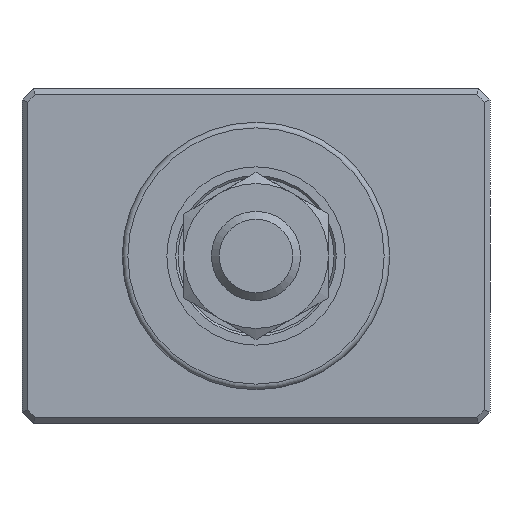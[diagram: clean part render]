
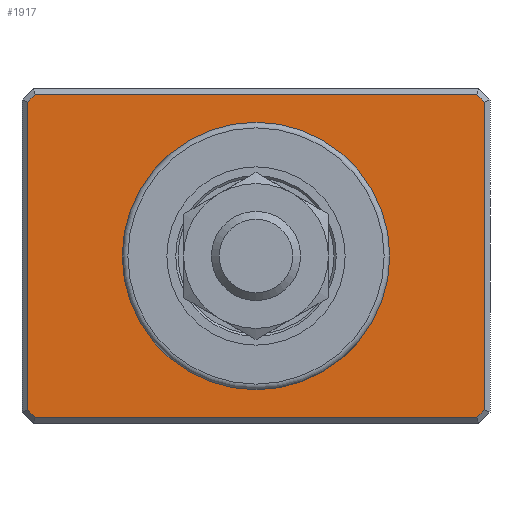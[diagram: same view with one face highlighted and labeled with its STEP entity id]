
A CAD part, front view. The second image highlights one B-rep face of the part: STEP entity #1917.
In plain terms, the highlighted planar face has unit normal (0, -1, 0).
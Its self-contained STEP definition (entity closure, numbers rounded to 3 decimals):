
#1640=CARTESIAN_POINT('',(19.793,-14.0,14.5));
#1641=VERTEX_POINT('',#1640);
#1642=CARTESIAN_POINT('',(20.5,-14.0,13.793));
#1643=VERTEX_POINT('',#1642);
#1644=CARTESIAN_POINT('',(19.793,-14.0,14.5));
#1645=DIRECTION('',(0.707,0.0,-0.707));
#1646=VECTOR('',#1645,1.);
#1647=LINE('',#1644,#1646);
#1648=EDGE_CURVE('',#1641,#1643,#1647,.T.);
#1680=CARTESIAN_POINT('',(-19.793,-14.0,14.5));
#1681=VERTEX_POINT('',#1680);
#1682=CARTESIAN_POINT('',(-19.793,-14.0,14.5));
#1683=DIRECTION('',(1.0,0.0,0.0));
#1684=VECTOR('',#1683,39.586);
#1685=LINE('',#1682,#1684);
#1686=EDGE_CURVE('',#1681,#1641,#1685,.T.);
#1716=CARTESIAN_POINT('',(20.5,-14.0,-13.793));
#1717=VERTEX_POINT('',#1716);
#1718=CARTESIAN_POINT('',(20.5,-14.0,13.793));
#1719=DIRECTION('',(0.0,0.0,-1.0));
#1720=VECTOR('',#1719,27.586);
#1721=LINE('',#1718,#1720);
#1722=EDGE_CURVE('',#1643,#1717,#1721,.T.);
#1738=CARTESIAN_POINT('',(19.793,-14.0,-14.5));
#1739=VERTEX_POINT('',#1738);
#1740=CARTESIAN_POINT('',(-19.793,-14.0,-14.5));
#1741=VERTEX_POINT('',#1740);
#1742=CARTESIAN_POINT('',(19.793,-14.0,-14.5));
#1743=DIRECTION('',(-1.0,0.0,0.0));
#1744=VECTOR('',#1743,39.586);
#1745=LINE('',#1742,#1744);
#1746=EDGE_CURVE('',#1739,#1741,#1745,.T.);
#1769=CARTESIAN_POINT('',(-20.5,-14.0,-13.793));
#1770=VERTEX_POINT('',#1769);
#1771=CARTESIAN_POINT('',(-19.793,-14.0,-14.5));
#1772=DIRECTION('',(-0.707,0.0,0.707));
#1773=VECTOR('',#1772,1.);
#1774=LINE('',#1771,#1773);
#1775=EDGE_CURVE('',#1741,#1770,#1774,.T.);
#1795=CARTESIAN_POINT('',(-20.5,-14.0,13.793));
#1796=VERTEX_POINT('',#1795);
#1797=CARTESIAN_POINT('',(-20.5,-14.0,-13.793));
#1798=DIRECTION('',(0.0,0.0,1.0));
#1799=VECTOR('',#1798,27.586);
#1800=LINE('',#1797,#1799);
#1801=EDGE_CURVE('',#1770,#1796,#1800,.T.);
#1817=CARTESIAN_POINT('',(20.5,-14.0,-13.793));
#1818=DIRECTION('',(-0.707,0.0,-0.707));
#1819=VECTOR('',#1818,1.);
#1820=LINE('',#1817,#1819);
#1821=EDGE_CURVE('',#1717,#1739,#1820,.T.);
#1834=CARTESIAN_POINT('',(-20.5,-14.0,13.793));
#1835=DIRECTION('',(0.707,0.0,0.707));
#1836=VECTOR('',#1835,1.);
#1837=LINE('',#1834,#1836);
#1838=EDGE_CURVE('',#1796,#1681,#1837,.T.);
#1891=CARTESIAN_POINT('',(0.0,-14.0,-15.));
#1892=DIRECTION('',(0.0,-1.0,0.0));
#1893=DIRECTION('',(0.0,0.0,-1.0));
#1894=AXIS2_PLACEMENT_3D('',#1891,#1892,#1893);
#1895=PLANE('',#1894);
#1896=ORIENTED_EDGE('',*,*,#1746,.F.);
#1897=ORIENTED_EDGE('',*,*,#1821,.F.);
#1898=ORIENTED_EDGE('',*,*,#1722,.F.);
#1899=ORIENTED_EDGE('',*,*,#1648,.F.);
#1900=ORIENTED_EDGE('',*,*,#1686,.F.);
#1901=ORIENTED_EDGE('',*,*,#1838,.F.);
#1902=ORIENTED_EDGE('',*,*,#1801,.F.);
#1903=ORIENTED_EDGE('',*,*,#1775,.F.);
#1904=EDGE_LOOP('',(#1896,#1897,#1898,#1899,#1900,#1901,#1902,#1903));
#1905=FACE_OUTER_BOUND('',#1904,.T.);
#1906=CARTESIAN_POINT('',(0.0,-14.0,12.));
#1907=VERTEX_POINT('',#1906);
#1908=CARTESIAN_POINT('',(0.0,-14.0,0.0));
#1909=DIRECTION('',(0.0,1.0,0.0));
#1910=DIRECTION('',(0.0,0.0,1.0));
#1911=AXIS2_PLACEMENT_3D('',#1908,#1909,#1910);
#1912=CIRCLE('',#1911,12.);
#1913=EDGE_CURVE('',#1907,#1907,#1912,.T.);
#1914=ORIENTED_EDGE('',*,*,#1913,.T.);
#1915=EDGE_LOOP('',(#1914));
#1916=FACE_BOUND('',#1915,.T.);
#1917=ADVANCED_FACE('',(#1905,#1916),#1895,.T.);
